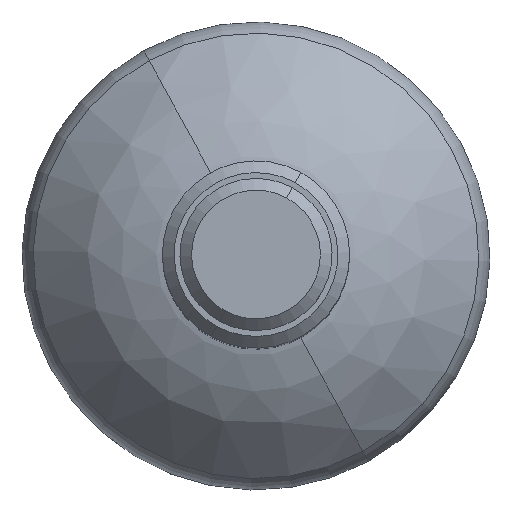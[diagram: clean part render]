
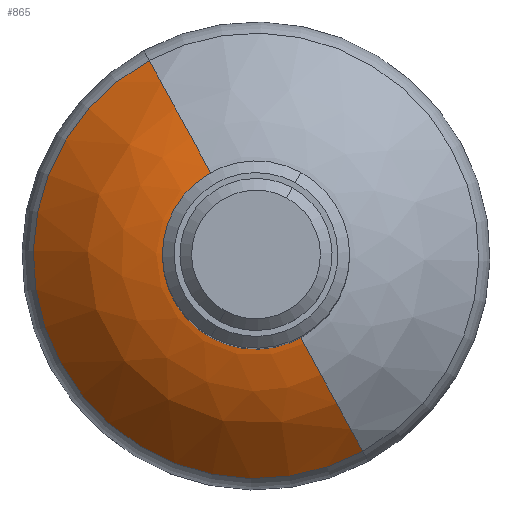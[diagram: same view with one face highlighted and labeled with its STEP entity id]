
A CAD part, top view. The second image highlights one B-rep face of the part: STEP entity #865.
In plain terms, the highlighted face is a revolution surface.
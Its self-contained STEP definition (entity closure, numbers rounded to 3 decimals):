
#784=CARTESIAN_POINT('Vertex',(9.127,-16.706,5.951)) ;
#791=CARTESIAN_POINT('Vertex',(-9.127,16.706,5.951)) ;
#806=CARTESIAN_POINT('Axis2P3D Location',(0.,0.,5.951)) ;
#819=CARTESIAN_POINT('Control Point',(-9.127,16.706,5.951)) ;
#820=CARTESIAN_POINT('Control Point',(-7.971,14.591,9.248)) ;
#821=CARTESIAN_POINT('Control Point',(-6.383,11.683,11.892)) ;
#822=CARTESIAN_POINT('Control Point',(-4.502,8.241,13.498)) ;
#823=CARTESIAN_POINT('Control Point',(-2.559,4.683,13.998)) ;
#824=CARTESIAN_POINT('Axis1P Location',(0.,0.,-5.852)) ;
#828=CARTESIAN_POINT('Axis2P3D Location',(-1.386,2.537,-5.852)) ;
#832=CARTESIAN_POINT('Vertex',(-2.559,4.683,13.998)) ;
#839=CARTESIAN_POINT('Vertex',(2.559,-4.683,13.998)) ;
#842=CARTESIAN_POINT('Axis2P3D Location',(1.386,-2.537,-5.852)) ;
#854=CARTESIAN_POINT('Axis2P3D Location',(0.,0.,13.998)) ;
#807=DIRECTION('Axis2P3D Direction',(0.,0.,1.)) ;
#825=DIRECTION('Axis1P Direction',(-0.,-0.,-1.)) ;
#829=DIRECTION('Axis2P3D Direction',(0.878,0.479,-0.)) ;
#843=DIRECTION('Axis2P3D Direction',(-0.878,-0.479,0.)) ;
#855=DIRECTION('Axis2P3D Direction',(0.,0.,1.)) ;
#808=AXIS2_PLACEMENT_3D('Circle Axis2P3D',#806,#807,$) ;
#830=AXIS2_PLACEMENT_3D('Circle Axis2P3D',#828,#829,$) ;
#844=AXIS2_PLACEMENT_3D('Circle Axis2P3D',#842,#843,$) ;
#856=AXIS2_PLACEMENT_3D('Circle Axis2P3D',#854,#855,$) ;
#860=ORIENTED_EDGE('',*,*,#834,.F.) ;
#861=ORIENTED_EDGE('',*,*,#810,.T.) ;
#862=ORIENTED_EDGE('',*,*,#846,.T.) ;
#863=ORIENTED_EDGE('',*,*,#858,.F.) ;
#865=ADVANCED_FACE('PartBody',(#864),#827,.F.) ;
#826=AXIS1_PLACEMENT('Revolution Surface Axis1P',#824,#825) ;
#818=B_SPLINE_CURVE_WITH_KNOTS('',4,(#819,#820,#821,#822,#823),.UNSPECIFIED.,.F.,.U.,(5,5),(12.625,28.964),.UNSPECIFIED.) ;
#809=CIRCLE('generated circle',#808,19.037) ;
#831=CIRCLE('generated circle',#830,20.) ;
#845=CIRCLE('generated circle',#844,20.) ;
#857=CIRCLE('generated circle',#856,5.337) ;
#810=EDGE_CURVE('',#792,#785,#809,.T.) ;
#834=EDGE_CURVE('',#792,#833,#831,.T.) ;
#846=EDGE_CURVE('',#785,#840,#845,.T.) ;
#858=EDGE_CURVE('',#833,#840,#857,.T.) ;
#859=EDGE_LOOP('',(#860,#861,#862,#863)) ;
#864=FACE_OUTER_BOUND('',#859,.T.) ;
#827=SURFACE_OF_REVOLUTION('homeo Torus',#818,#826) ;
#785=VERTEX_POINT('',#784) ;
#792=VERTEX_POINT('',#791) ;
#833=VERTEX_POINT('',#832) ;
#840=VERTEX_POINT('',#839) ;
